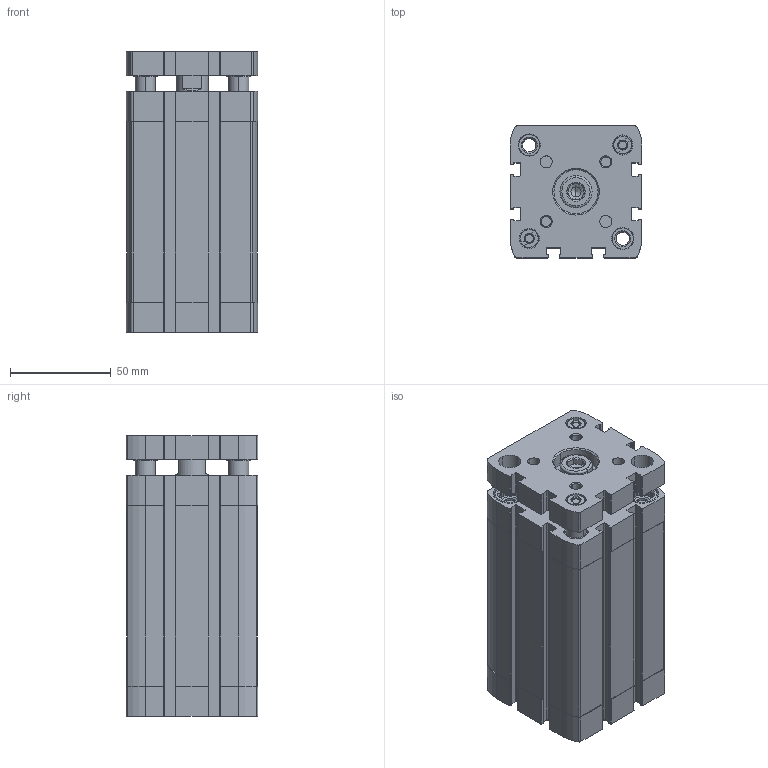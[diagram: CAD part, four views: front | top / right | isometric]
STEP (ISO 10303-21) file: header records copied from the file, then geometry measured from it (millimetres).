
FILE_DESCRIPTION (( 'STEP AP203' ), '1' );
FILE_NAME ('CCNG50-75.STEP', '2017-04-20T14:04:03', ( '' ), ( '' ), 'SwSTEP 2.0', 'SolidWorks 2016', '' );
FILE_SCHEMA (( 'CONFIG_CONTROL_DESIGN' ));
Length unit declared in the file: millimetre
Products named in the file (3): CCNG-50-75----(Z); CCNG-50-75----(KS); CCNG50-75
Assembly tree (2 placements, depth 2):
  CCNG50-75
    CCNG-50-75----(Z)
    CCNG-50-75----(KS)
Bounding box: 65.5 x 65.5 x 139.7 mm (x, y, z)
Volume: 374992.6 mm3; surface area: 114538.2 mm2
Topology: 2 solids, 4 shells, 714 faces, 1930 edges, 1267 vertices
Faces by surface type: plane 358, cylinder 278, cone 72, bspline 6
Entity records: 23191 total; most frequent: CARTESIAN_POINT 4450, DIRECTION 3972, ORIENTED_EDGE 3856, EDGE_CURVE 1928, AXIS2_PLACEMENT_3D 1465, VERTEX_POINT 1267, VECTOR 1042, LINE 1042
